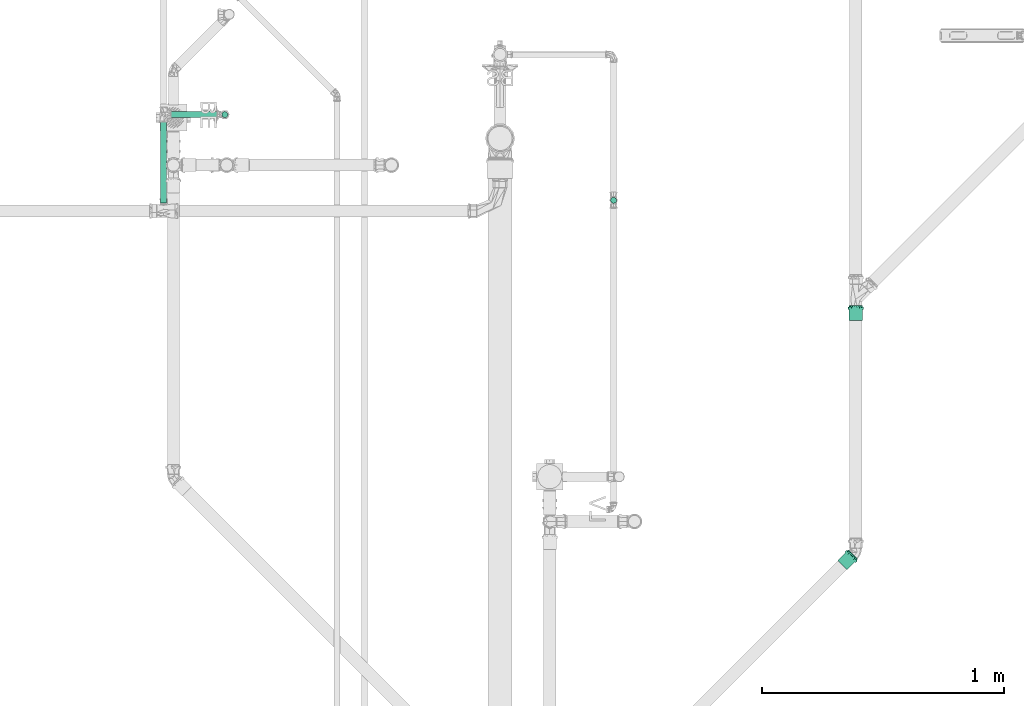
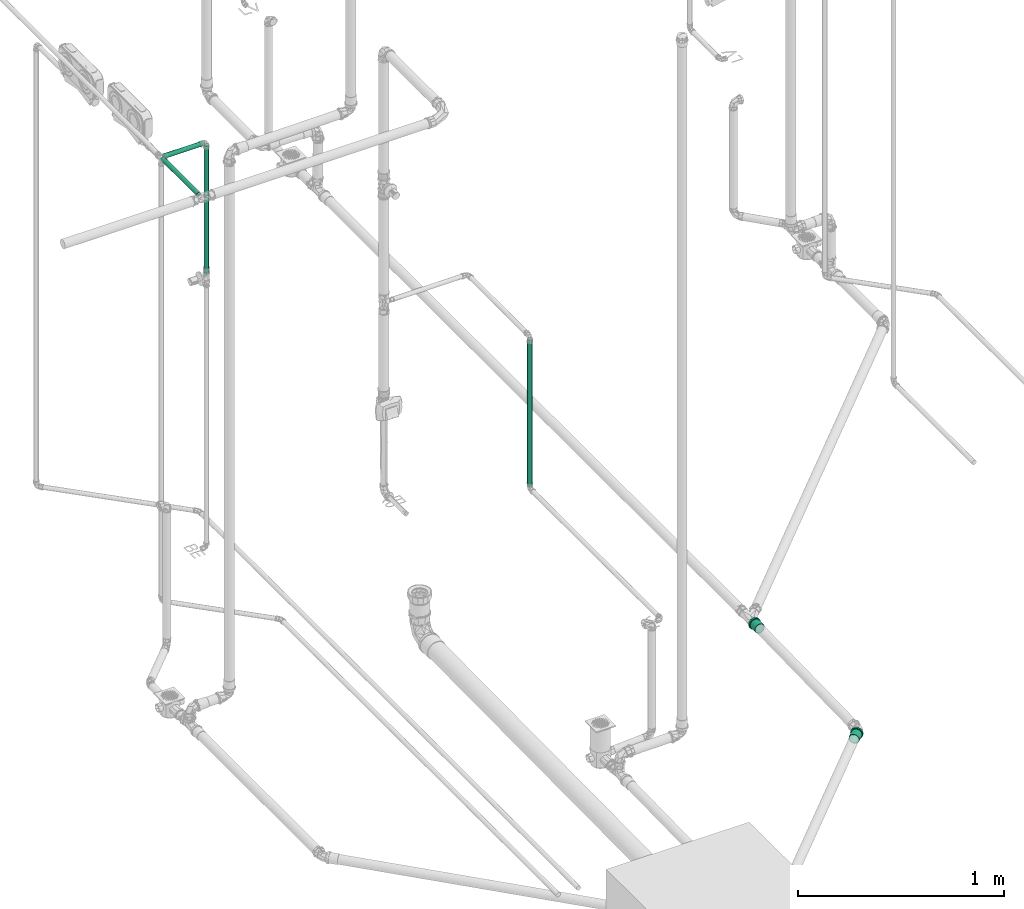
# One storey, part 143 of 589: 4 flow segments, 2 flow fittings.
"""IFC2X3 building model written with IfcOpenShell, lengths in millimetres."""

from ifc_helpers import new_model, entity, si_unit, converted_unit, derived_unit, direction, frame, frame_2d, origin, origin_2d_with_axis, place, context, subcontext, project, spatial, circle, extrude, faceted_brep, source, transform, mapped, material, type_object, type_shapes, element, save


model = new_model("IFC2X3")

# Units and contexts
model_context = context("Model", 3, precision=0.01, world=origin(), true_north=direction((6.123031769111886e-17, 1.0)))
body_context = subcontext(model_context, "Body", "Model", "MODEL_VIEW")
ifc_project = project(units=[si_unit("LENGTHUNIT", "METRE", prefix="MILLI"), si_unit("AREAUNIT", "SQUARE_METRE"), si_unit("VOLUMEUNIT", "CUBIC_METRE"), converted_unit("PLANEANGLEUNIT", "DEGREE", entity("IfcRatioMeasure", 0.017453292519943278), si_unit("PLANEANGLEUNIT", "RADIAN"), dimensions=[0, 0, 0, 0, 0, 0, 0]), si_unit("MASSUNIT", "GRAM", prefix="KILO"), derived_unit("MASSDENSITYUNIT", [(si_unit("MASSUNIT", "GRAM", prefix="KILO"), 1), (si_unit("LENGTHUNIT", "METRE"), -3)]), derived_unit("IONCONCENTRATIONUNIT", [(si_unit("MASSUNIT", "GRAM", prefix="KILO"), 1), (si_unit("LENGTHUNIT", "METRE"), -3)]), derived_unit("MOMENTOFINERTIAUNIT", [(si_unit("LENGTHUNIT", "METRE"), 4)]), si_unit("TIMEUNIT", "SECOND"), si_unit("FREQUENCYUNIT", "HERTZ"), si_unit("THERMODYNAMICTEMPERATUREUNIT", "DEGREE_CELSIUS"), derived_unit("THERMALTRANSMITTANCEUNIT", [(si_unit("MASSUNIT", "GRAM", prefix="KILO"), 1), (si_unit("THERMODYNAMICTEMPERATUREUNIT", "KELVIN"), -1), (si_unit("TIMEUNIT", "SECOND"), -3)]), derived_unit("THERMALCONDUCTANCEUNIT", [(si_unit("MASSUNIT", "GRAM", prefix="KILO"), 1), (si_unit("THERMODYNAMICTEMPERATUREUNIT", "KELVIN"), -1), (si_unit("TIMEUNIT", "SECOND"), -3), (si_unit("LENGTHUNIT", "METRE"), 1)]), derived_unit("VOLUMETRICFLOWRATEUNIT", [(si_unit("LENGTHUNIT", "METRE"), 3), (si_unit("TIMEUNIT", "SECOND"), -1)]), derived_unit("MASSFLOWRATEUNIT", [(si_unit("MASSUNIT", "GRAM", prefix="KILO"), 1), (si_unit("TIMEUNIT", "SECOND"), -1)]), derived_unit("ROTATIONALFREQUENCYUNIT", [(si_unit("TIMEUNIT", "SECOND"), -1)]), si_unit("ELECTRICCURRENTUNIT", "AMPERE"), si_unit("ELECTRICVOLTAGEUNIT", "VOLT"), si_unit("POWERUNIT", "WATT"), si_unit("FORCEUNIT", "NEWTON", prefix="KILO"), si_unit("ILLUMINANCEUNIT", "LUX"), si_unit("LUMINOUSFLUXUNIT", "LUMEN"), si_unit("LUMINOUSINTENSITYUNIT", "CANDELA"), derived_unit("USERDEFINED", [(si_unit("MASSUNIT", "GRAM", prefix="KILO"), -1), (si_unit("LENGTHUNIT", "METRE"), -2), (si_unit("TIMEUNIT", "SECOND"), 3), (si_unit("LUMINOUSFLUXUNIT", "LUMEN"), 1)]), derived_unit("USERDEFINED", [(si_unit("MASSUNIT", "GRAM", prefix="KILO"), 1), (si_unit("TIMEUNIT", "SECOND"), -3), (si_unit("LENGTHUNIT", "METRE"), 3), (si_unit("ELECTRICCURRENTUNIT", "AMPERE"), -2)]), derived_unit("SOUNDPOWERUNIT", [(si_unit("MASSUNIT", "GRAM", prefix="KILO"), 1), (si_unit("TIMEUNIT", "SECOND"), -3), (si_unit("LENGTHUNIT", "METRE"), 2)]), derived_unit("SOUNDPRESSUREUNIT", [(si_unit("MASSUNIT", "GRAM", prefix="KILO"), 1), (si_unit("LENGTHUNIT", "METRE"), -1), (si_unit("TIMEUNIT", "SECOND"), -2)]), derived_unit("LINEARVELOCITYUNIT", [(si_unit("LENGTHUNIT", "METRE"), 1), (si_unit("TIMEUNIT", "SECOND"), -1)]), si_unit("PRESSUREUNIT", "PASCAL"), derived_unit("USERDEFINED", [(si_unit("MASSUNIT", "GRAM", prefix="KILO"), 1), (si_unit("LENGTHUNIT", "METRE"), -2), (si_unit("TIMEUNIT", "SECOND"), -2)]), derived_unit("LINEARFORCEUNIT", [(si_unit("MASSUNIT", "GRAM", prefix="KILO"), 1), (si_unit("TIMEUNIT", "SECOND"), -2)]), derived_unit("PLANARFORCEUNIT", [(si_unit("MASSUNIT", "GRAM", prefix="KILO"), 1), (si_unit("LENGTHUNIT", "METRE"), -1), (si_unit("TIMEUNIT", "SECOND"), -2)]), derived_unit("SPECIFICHEATCAPACITYUNIT", [(si_unit("THERMODYNAMICTEMPERATUREUNIT", "KELVIN"), -1), (si_unit("LENGTHUNIT", "METRE"), 2), (si_unit("TIMEUNIT", "SECOND"), -2)]), derived_unit("HEATINGVALUEUNIT", [(si_unit("LENGTHUNIT", "METRE"), 2), (si_unit("TIMEUNIT", "SECOND"), -2)]), derived_unit("VAPORPERMEABILITYUNIT", [(si_unit("LENGTHUNIT", "METRE"), -1), (si_unit("TIMEUNIT", "SECOND"), 1)]), derived_unit("DYNAMICVISCOSITYUNIT", [(si_unit("MASSUNIT", "GRAM", prefix="KILO"), 1), (si_unit("TIMEUNIT", "SECOND"), -1), (si_unit("LENGTHUNIT", "METRE"), -1)]), derived_unit("THERMALEXPANSIONCOEFFICIENTUNIT", [(si_unit("THERMODYNAMICTEMPERATUREUNIT", "KELVIN"), -1)]), derived_unit("MODULUSOFELASTICITYUNIT", [(si_unit("MASSUNIT", "GRAM", prefix="KILO"), 1), (si_unit("LENGTHUNIT", "METRE"), -1), (si_unit("TIMEUNIT", "SECOND"), -2)]), derived_unit("ISOTHERMALMOISTURECAPACITYUNIT", [(si_unit("LENGTHUNIT", "METRE"), 3), (si_unit("MASSUNIT", "GRAM", prefix="KILO"), -1)]), derived_unit("MOISTUREDIFFUSIVITYUNIT", [(si_unit("TIMEUNIT", "SECOND"), -1), (si_unit("LENGTHUNIT", "METRE"), 2)])], contexts=[model_context])

# Site, building, storey
site_placement = place(None, origin())
site = spatial("IfcSite", under=ifc_project, at=site_placement, Name="Default", CompositionType="ELEMENT")
building_placement = place(site_placement, origin())
building = spatial("IfcBuilding", under=site, at=building_placement, CompositionType="ELEMENT")
storey_placement = place(building_placement, frame((0.0, 0.0, 100.0)))
storey = spatial("IfcBuildingStorey", under=building, at=storey_placement, Name="TÉRREO", CompositionType="ELEMENT", Elevation=100.0)

# Flow segments
pipe_segment_type = type_object("IfcPipeSegmentType", Name="Tipos de tubos:PVC Marrom Soldável", PredefinedType="NOTDEFINED")
flow_segment_1_placement = place(storey_placement, origin())
element("IfcFlowSegment", 1, at=flow_segment_1_placement, inside=storey, type_object=pipe_segment_type, Name="Tipos de tubos:PVC Marrom Soldável", ObjectType="Tipos de tubos:PVC Marrom Soldável", context=body_context, shape_type="SweptSolid", body=[
    extrude(circle(Radius=12.5, at=origin_2d_with_axis()), frame((9266.870885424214, -8568.028664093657, 615.4000000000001), z_axis=(0.0, 0.0, 1.0), x_axis=(-1.0, 0.0, 0.0)), (0.0, 0.0, 1.0), 867.999999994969),
])
flow_segment_2_placement = place(storey_placement, origin())
element("IfcFlowSegment", 2, at=flow_segment_2_placement, inside=storey, type_object=pipe_segment_type, Name="Tipos de tubos:PVC Marrom Soldável", ObjectType="Tipos de tubos:PVC Marrom Soldável", context=body_context, shape_type="SweptSolid", body=[
    extrude(circle(Radius=12.5, at=frame_2d((0.0, 1.0828671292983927e-12), x_axis=(1.0, 0.0))), frame((7661.65760304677, -8214.483617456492, 2220.0), z_axis=(0.0, 0.0, 1.0), x_axis=(-1.0, 0.0, 0.0)), (0.0, 0.0, 1.0), 759.6000000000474),
])
flow_segment_3_placement = place(storey_placement, origin())
element("IfcFlowSegment", 3, at=flow_segment_3_placement, inside=storey, type_object=pipe_segment_type, Name="Tipos de tubos:PVC Marrom Soldável", ObjectType="Tipos de tubos:PVC Marrom Soldável", context=body_context, shape_type="SweptSolid", body=[
    extrude(circle(Radius=12.5, at=origin_2d_with_axis()), frame((7408.9426853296, -8578.831283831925, 2995.0), z_axis=(0.0, 1.0, 0.0), x_axis=(1.0, 0.0, 0.0)), (0.0, 0.0, 1.0), 348.44766637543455),
])
flow_segment_4_placement = place(storey_placement, origin())
element("IfcFlowSegment", 4, at=flow_segment_4_placement, inside=storey, type_object=pipe_segment_type, Name="Tipos de tubos:PVC Marrom Soldável", ObjectType="Tipos de tubos:PVC Marrom Soldável", context=body_context, shape_type="SweptSolid", body=[
    extrude(circle(Radius=12.5, at=frame_2d((0.0, -5.414335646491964e-13), x_axis=(1.0, 0.0))), frame((7423.442685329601, -8214.483617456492, 2995.0), z_axis=(1.0, 0.0, 0.0), x_axis=(0.0, 1.0, 0.0)), (0.0, 0.0, 1.0), 222.8149177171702),
])

# Flow fittings
ifc_material = material(Name="PVC Série Normal")
pipe_fitting_type = type_object("IfcPipeFittingType", Name="PVC Esgoto_Luva Simples para Conexão_Rodrigo MEP:Standard", PredefinedType="NOTDEFINED", material=ifc_material)
shared_shape = source(origin(), body_context, "Body", "Brep", [
    faceted_brep([(16.599999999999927, 15.900000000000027, -27.53960784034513), (16.599999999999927, 22.485995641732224, -22.485995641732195), (16.599999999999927, 13.599999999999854, -23.555890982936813), (16.599999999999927, 7.039878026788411, -26.273182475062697), (16.599999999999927, 8.2304456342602, -30.71644127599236), (16.599999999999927, 19.233304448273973, -19.233304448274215), (16.599999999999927, 27.539607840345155, -15.899999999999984), (16.599999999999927, 23.55589098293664, -13.600000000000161), (16.599999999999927, 26.273182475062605, -7.03987802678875), (16.599999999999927, 30.716441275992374, -8.230445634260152), (16.599999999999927, 27.2, 0.0), (16.599999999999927, 31.8, 0.0), (16.599999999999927, 26.273182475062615, 7.0398780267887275), (16.599999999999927, 30.71644127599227, 8.23044563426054), (16.599999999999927, 23.555890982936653, 13.60000000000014), (16.599999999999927, 27.539607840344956, 15.900000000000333), (16.599999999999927, 19.233304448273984, 19.2333044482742), (16.599999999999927, 22.485995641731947, 22.48599564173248), (16.599999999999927, 13.599999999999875, 23.555890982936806), (16.599999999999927, 15.899999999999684, 27.53960784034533), (16.599999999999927, 7.039878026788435, 26.27318247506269), (16.599999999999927, 8.230445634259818, 30.716441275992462), (16.599999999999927, 0.0, 27.2), (16.599999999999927, 0.0, 31.8), (16.599999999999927, -7.039878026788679, 26.273182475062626), (16.599999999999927, -8.230445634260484, 30.716441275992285), (16.599999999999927, -13.600000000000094, 23.555890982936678), (16.599999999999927, -15.900000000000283, 27.53960784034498), (16.599999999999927, -19.23330444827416, 19.233304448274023), (16.599999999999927, -22.485995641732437, 22.48599564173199), (16.599999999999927, -23.55589098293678, 13.59999999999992), (16.599999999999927, -27.539607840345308, 15.899999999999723), (16.599999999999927, -30.71644127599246, 8.230445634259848), (16.599999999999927, -26.273182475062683, 7.039878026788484), (16.599999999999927, -31.8, 0.0), (16.599999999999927, -27.2, 0.0), (16.599999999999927, -30.71644127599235, -8.23044563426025), (16.599999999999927, -26.273182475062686, -7.03987802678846), (16.599999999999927, -27.53960784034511, -15.90000000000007), (16.599999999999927, -23.55589098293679, -13.599999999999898), (16.599999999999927, -22.485995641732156, -22.485995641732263), (16.599999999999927, -19.233304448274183, -19.233304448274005), (16.599999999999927, -15.899999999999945, -27.53960784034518), (16.599999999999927, -13.600000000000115, -23.555890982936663), (16.599999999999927, -8.230445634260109, -30.716441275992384), (16.599999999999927, -7.039878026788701, -26.273182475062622), (16.599999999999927, 0.0, -31.8), (16.599999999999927, 0.0, -27.2), (6.500000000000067, -10.708108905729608, 29.429219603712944), (6.500000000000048, -24.359073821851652, 20.44200387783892), (6.500000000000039, -27.120498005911, 15.6595386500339), (6.50000000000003, -29.881922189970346, 10.877073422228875), (6.500000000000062, -15.89769721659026, 27.540937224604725), (6.500000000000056, -20.128385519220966, 23.991470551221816), (6.50000000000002, -30.840961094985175, 5.438536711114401), (6.5000000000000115, -31.8, 0.0), (6.50000000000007, -5.518520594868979, 31.317501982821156), (6.500000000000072, 5.526376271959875, 31.316116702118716), (6.50000000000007, 0.00392783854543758, 31.316809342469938), (6.500000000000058, 20.134403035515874, 23.986420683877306), (6.500000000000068, 10.715490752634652, 29.42653259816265), (6.500000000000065, 15.904605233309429, 27.536948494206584), (6.500000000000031, 29.8846497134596, 10.869577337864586), (6.500000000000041, 27.12442527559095, 15.652735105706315), (6.5000000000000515, 24.364200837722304, 20.435892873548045), (6.5000000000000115, 31.8, 0.0), (6.499999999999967, 24.364200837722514, -20.435892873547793), (6.499999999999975, 27.12442527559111, -15.652735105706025), (6.499999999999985, 29.884649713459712, -10.869577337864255), (6.4999999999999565, 15.904605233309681, -27.53694849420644), (6.499999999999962, 20.134403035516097, -23.986420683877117), (6.499999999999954, 10.715490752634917, -29.42653259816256), (6.499999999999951, 5.526376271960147, -31.31611670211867), (6.499999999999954, -5.518520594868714, -31.317501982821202), (6.499999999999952, 0.003927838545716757, -31.316809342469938), (6.499999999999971, -20.128385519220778, -23.99147055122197), (6.499999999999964, -15.897697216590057, -27.54093722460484), (6.499999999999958, -10.70810890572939, -29.42921960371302), (6.499999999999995, -29.881922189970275, -10.877073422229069), (6.499999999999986, -27.12049800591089, -15.659538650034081), (6.499999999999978, -24.359073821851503, -20.442003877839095), (6.500000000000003, -30.840961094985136, -5.438536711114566), (6.499999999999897, -30.696173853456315, -6.259599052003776), (62.0, 13.600000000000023, -23.55589098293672), (62.0, 19.233304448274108, -19.23330444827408), (62.0, 12.499999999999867, -21.650635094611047), (62.0, 6.470476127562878, -24.14814565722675), (62.0, 7.039878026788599, -26.273182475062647), (62.0, 17.677669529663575, -17.677669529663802), (62.0, 23.55589098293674, -13.599999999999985), (62.0, 21.65063509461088, -12.50000000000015), (62.0, 24.148145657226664, -6.470476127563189), (62.0, 26.27318247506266, -7.039878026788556), (62.0, 25.0, 0.0), (62.0, 27.2, 0.0), (62.0, 24.148145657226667, 6.4704761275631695), (62.0, 26.273182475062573, 7.03987802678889), (62.0, 21.650635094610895, 12.500000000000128), (62.0, 23.555890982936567, 13.600000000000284), (62.0, 17.67766952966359, 17.67766952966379), (62.0, 19.233304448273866, 19.233304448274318), (62.0, 12.499999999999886, 21.650635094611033), (62.0, 13.59999999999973, 23.55589098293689), (62.0, 6.4704761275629, 24.14814565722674), (62.0, 7.039878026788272, 26.273182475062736), (62.0, 0.0, 25.0), (62.0, 0.0, 27.2), (62.0, -6.470476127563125, 24.148145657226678), (62.0, -7.039878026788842, 26.273182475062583), (62.0, -12.500000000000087, 21.650635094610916), (62.0, -13.600000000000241, 23.555890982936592), (62.0, -17.677669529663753, 17.677669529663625), (62.0, -19.233304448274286, 19.2333044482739), (62.0, -21.65063509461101, 12.499999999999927), (62.0, -23.555890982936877, 13.599999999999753), (62.0, -26.27318247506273, 7.039878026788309), (62.0, -24.14814565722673, 6.470476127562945), (62.0, -27.2, 0.0), (62.0, -25.0, 0.0), (62.0, -26.27318247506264, -7.0398780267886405), (62.0, -24.148145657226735, -6.470476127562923), (62.0, -23.5558909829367, -13.600000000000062), (62.0, -21.650635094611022, -12.499999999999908), (62.0, -19.233304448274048, -19.233304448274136), (62.0, -17.67766952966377, -17.677669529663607), (62.0, -13.599999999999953, -23.555890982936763), (62.0, -12.500000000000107, -21.650635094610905), (62.0, -7.039878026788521, -26.27318247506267), (62.0, -6.470476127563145, -24.148145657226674), (62.0, 0.0, -27.2), (62.0, 0.0, -25.0), (0.0, 12.499999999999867, -21.650635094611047), (0.0, 19.233304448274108, -19.23330444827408), (0.0, 13.600000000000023, -23.55589098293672), (0.0, 6.470476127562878, -24.14814565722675), (0.0, 17.677669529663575, -17.677669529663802), (0.0, 23.55589098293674, -13.599999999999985), (0.0, 21.65063509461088, -12.50000000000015), (0.0, 24.148145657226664, -6.470476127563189), (0.0, 26.27318247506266, -7.039878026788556), (0.0, 25.0, 0.0), (0.0, 27.2, 0.0), (0.0, 24.148145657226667, 6.4704761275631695), (0.0, 26.273182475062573, 7.03987802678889), (0.0, 21.650635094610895, 12.500000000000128), (0.0, 23.555890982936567, 13.600000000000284), (0.0, 17.67766952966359, 17.67766952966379), (0.0, 19.233304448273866, 19.233304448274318), (0.0, 12.499999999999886, 21.650635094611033), (0.0, 13.59999999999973, 23.55589098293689), (0.0, 6.4704761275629, 24.14814565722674), (0.0, 7.039878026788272, 26.273182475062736), (0.0, 0.0, 25.0), (0.0, 0.0, 27.2), (0.0, -6.470476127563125, 24.148145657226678), (0.0, -7.039878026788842, 26.273182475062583), (0.0, -12.500000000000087, 21.650635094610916), (0.0, -13.600000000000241, 23.555890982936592), (0.0, -17.677669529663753, 17.677669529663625), (0.0, -19.233304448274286, 19.2333044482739), (0.0, -21.65063509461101, 12.499999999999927), (0.0, -23.555890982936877, 13.599999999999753), (0.0, -26.27318247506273, 7.039878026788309), (0.0, -24.14814565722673, 6.470476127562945), (0.0, -27.2, 0.0), (0.0, -25.0, 0.0), (0.0, -26.27318247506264, -7.0398780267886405), (0.0, -24.148145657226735, -6.470476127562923), (0.0, -23.5558909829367, -13.600000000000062), (0.0, -21.650635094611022, -12.499999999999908), (0.0, -19.233304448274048, -19.233304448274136), (0.0, -17.67766952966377, -17.677669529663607), (0.0, -13.599999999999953, -23.555890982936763), (0.0, -12.500000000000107, -21.650635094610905), (0.0, -7.039878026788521, -26.27318247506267), (0.0, -6.470476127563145, -24.148145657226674), (0.0, 0.0, -27.2), (0.0, 0.0, -25.0), (0.0, 7.039878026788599, -26.273182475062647), (5.300000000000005, -26.37968999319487, 4.651830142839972), (5.299999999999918, -26.25584678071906, 5.354122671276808), (5.300000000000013, -25.559379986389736, 9.303660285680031), (5.300000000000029, -20.835434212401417, 17.48498444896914), (5.300000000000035, -17.216732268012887, 20.521006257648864), (5.300000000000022, -23.19740709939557, 13.394322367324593), (5.3000000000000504, -4.720244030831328, 26.787297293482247), (5.300000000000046, -9.15913717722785, 25.172162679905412), (5.299999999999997, -27.2, 0.0), (5.300000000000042, -13.598030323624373, 23.557028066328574), (5.300000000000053, 9.165451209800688, 25.169864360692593), (5.300000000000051, 13.603939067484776, 23.55361632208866), (5.300000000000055, 4.7269633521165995, 26.786112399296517), (5.300000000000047, 17.221879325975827, 20.516686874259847), (5.300000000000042, 20.839819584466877, 17.479757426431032), (5.3000000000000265, 25.56171296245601, 9.297248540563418), (5.299999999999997, 27.2, 0.0), (5.3000000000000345, 23.20076627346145, 13.388502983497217), (5.300000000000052, 0.003359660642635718, 26.786704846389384), (5.299999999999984, 25.56171296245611, -9.29724854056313), (5.299999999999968, 20.839819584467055, -17.47975742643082), (5.2999999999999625, 17.22187932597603, -20.516686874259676), (5.299999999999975, 23.200766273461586, -13.388502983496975), (5.299999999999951, 4.726963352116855, -26.78611239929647), (5.2999999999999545, 9.165451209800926, -25.169864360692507), (5.299999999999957, 13.603939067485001, -23.553616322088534), (5.29999999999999, -26.379689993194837, -4.651830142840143), (5.299999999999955, -9.159137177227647, -25.17216267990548), (5.299999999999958, -13.5980303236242, -23.55702806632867), (5.299999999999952, -4.720244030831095, -26.787297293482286), (5.299999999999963, -17.216732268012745, -20.52100625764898), (5.299999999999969, -20.83543421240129, -17.484984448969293), (5.299999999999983, -25.559379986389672, -9.303660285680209), (5.299999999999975, -23.197407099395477, -13.394322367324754), (5.299999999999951, 0.003359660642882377, -26.78670484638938), (39.0, -25.0, 0.0), (39.0, 25.0, 0.0)], [[[0, 1, 2]], [[0, 2, 3]], [[3, 4, 0]], [[2, 1, 5]], [[6, 5, 1]], [[7, 5, 6]], [[8, 7, 6]], [[8, 6, 9]], [[8, 9, 10]], [[10, 9, 11]], [[12, 10, 11]], [[12, 11, 13]], [[14, 12, 13]], [[14, 13, 15]], [[16, 14, 15]], [[15, 17, 16]], [[17, 18, 16]], [[17, 19, 18]], [[18, 19, 20]], [[21, 20, 19]], [[20, 21, 22]], [[22, 21, 23]], [[22, 23, 24]], [[24, 23, 25]], [[24, 25, 26]], [[27, 26, 25]], [[27, 28, 26]], [[28, 27, 29]], [[30, 28, 29]], [[31, 30, 29]], [[32, 30, 31]], [[33, 30, 32]], [[33, 32, 34]], [[35, 33, 34]], [[36, 35, 34]], [[36, 37, 35]], [[37, 36, 38]], [[39, 37, 38]], [[39, 38, 40]], [[39, 40, 41]], [[40, 42, 41]], [[41, 42, 43]], [[43, 42, 44]], [[44, 45, 43]], [[46, 45, 44]], [[4, 47, 46]], [[46, 47, 45]], [[4, 3, 47]], [[48, 27, 25]], [[31, 29, 49]], [[31, 49, 50, 51]], [[52, 53, 27]], [[32, 51, 54]], [[54, 55, 34]], [[54, 34, 32]], [[25, 56, 48]], [[49, 29, 53]], [[23, 57, 58, 56]], [[59, 19, 17]], [[27, 53, 29]], [[48, 52, 27]], [[31, 51, 32]], [[57, 23, 21]], [[60, 19, 61]], [[15, 62, 63, 64]], [[19, 60, 21]], [[15, 13, 62]], [[17, 64, 59]], [[57, 21, 60]], [[23, 56, 25]], [[15, 64, 17]], [[13, 65, 62]], [[13, 11, 65]], [[59, 61, 19]], [[65, 11, 9]], [[6, 1, 66]], [[6, 66, 67, 68]], [[69, 70, 0]], [[68, 65, 9]], [[71, 69, 0]], [[71, 0, 4]], [[4, 72, 71]], [[66, 1, 70]], [[46, 73, 74, 72]], [[75, 76, 42]], [[0, 70, 1]], [[75, 42, 40]], [[6, 68, 9]], [[73, 46, 44]], [[77, 42, 76]], [[38, 78, 79, 80]], [[42, 77, 44]], [[38, 36, 78]], [[40, 80, 75]], [[73, 44, 77]], [[46, 72, 4]], [[38, 80, 40]], [[36, 81, 82, 78]], [[55, 81, 34]], [[34, 81, 36]], [[83, 84, 85]], [[83, 85, 86]], [[86, 87, 83]], [[85, 84, 88]], [[89, 88, 84]], [[88, 89, 90]], [[90, 89, 91]], [[92, 91, 89]], [[92, 93, 91]], [[93, 92, 94]], [[95, 93, 94]], [[94, 96, 95]], [[95, 96, 97]], [[98, 97, 96]], [[97, 98, 99]], [[99, 98, 100]], [[101, 99, 100]], [[100, 102, 101]], [[101, 102, 103]], [[104, 103, 102]], [[103, 104, 105]], [[105, 104, 106]], [[105, 106, 107]], [[107, 106, 108]], [[107, 108, 109]], [[110, 109, 108]], [[110, 111, 109]], [[111, 110, 112]], [[112, 113, 111]], [[114, 113, 112]], [[113, 114, 115]], [[115, 116, 113]], [[117, 116, 115]], [[117, 118, 116]], [[119, 118, 117]], [[119, 120, 118]], [[120, 119, 121]], [[121, 122, 120]], [[122, 121, 123]], [[122, 123, 124]], [[123, 125, 124]], [[124, 125, 126]], [[126, 125, 127]], [[127, 128, 126]], [[129, 128, 127]], [[87, 130, 129]], [[129, 130, 128]], [[87, 86, 130]], [[131, 132, 133]], [[134, 131, 133]], [[135, 132, 131]], [[132, 135, 136]], [[137, 136, 135]], [[138, 136, 137]], [[136, 138, 139]], [[138, 140, 139]], [[141, 139, 140]], [[141, 140, 142]], [[142, 143, 141]], [[144, 143, 142]], [[143, 144, 145]], [[146, 145, 144]], [[147, 145, 146]], [[147, 146, 148]], [[148, 149, 147]], [[150, 149, 148]], [[149, 150, 151]], [[152, 151, 150]], [[153, 151, 152]], [[154, 153, 152]], [[155, 153, 154]], [[156, 155, 154]], [[155, 156, 157]], [[156, 158, 157]], [[159, 157, 158]], [[158, 160, 159]], [[159, 160, 161]], [[162, 161, 160]], [[160, 163, 162]], [[162, 163, 164]], [[163, 165, 164]], [[164, 165, 166]], [[165, 167, 166]], [[168, 166, 167]], [[167, 169, 168]], [[170, 168, 169]], [[171, 170, 169]], [[171, 172, 170]], [[173, 172, 171]], [[174, 172, 173]], [[173, 175, 174]], [[174, 175, 176]], [[175, 177, 176]], [[177, 134, 178]], [[176, 177, 178]], [[133, 178, 134]], [[162, 179, 180, 181]], [[159, 182, 183]], [[182, 161, 181, 184]], [[185, 155, 186]], [[161, 162, 181]], [[187, 179, 164]], [[183, 188, 157]], [[183, 157, 159]], [[161, 182, 159]], [[189, 190, 149]], [[189, 149, 151]], [[157, 188, 186]], [[157, 186, 155]], [[153, 155, 185]], [[164, 179, 162]], [[151, 191, 189]], [[147, 192, 193]], [[143, 194, 195]], [[194, 145, 193, 196]], [[143, 195, 141]], [[10, 12, 96, 94]], [[149, 192, 147]], [[153, 185, 197, 191]], [[153, 191, 151]], [[145, 147, 193]], [[190, 192, 149]], [[145, 194, 143]], [[139, 195, 198]], [[132, 199, 200]], [[199, 136, 198, 201]], [[202, 178, 203]], [[136, 139, 198]], [[139, 141, 195]], [[92, 8, 10, 94]], [[133, 203, 178]], [[200, 204, 133]], [[136, 199, 132]], [[205, 164, 166]], [[206, 207, 172]], [[133, 204, 203]], [[206, 172, 174]], [[176, 178, 202]], [[200, 133, 132]], [[174, 208, 206]], [[170, 209, 210]], [[166, 211, 205]], [[211, 168, 210, 212]], [[168, 211, 166]], [[172, 209, 170]], [[176, 202, 213, 208]], [[176, 208, 174]], [[168, 170, 210]], [[207, 209, 172]], [[205, 187, 164]], [[116, 118, 214, 165, 163]], [[156, 109, 111, 158]], [[111, 113, 160, 158]], [[113, 116, 163, 160]], [[107, 109, 156, 154]], [[154, 152, 105, 107]], [[103, 105, 152, 150]], [[103, 150, 148, 101]], [[142, 95, 97, 144]], [[97, 99, 146, 144]], [[99, 101, 148, 146]], [[93, 95, 142, 140, 215]], [[215, 140, 138, 91, 93]], [[135, 131, 85, 88]], [[90, 91, 138, 137]], [[90, 137, 135, 88]], [[86, 85, 131, 134]], [[134, 177, 130, 86]], [[128, 130, 177, 175]], [[128, 175, 173, 126]], [[167, 120, 122, 169]], [[122, 124, 171, 169]], [[124, 126, 173, 171]], [[118, 120, 167, 165, 214]], [[211, 78, 82, 81, 55, 187, 205]], [[79, 78, 211, 212, 210, 80]], [[75, 80, 210, 209, 207, 76]], [[207, 206, 208, 73, 77, 76]], [[213, 202, 72, 74, 73, 208]], [[203, 204, 69, 71, 72, 202]], [[198, 195, 65, 68]], [[199, 201, 198, 68, 67, 66]], [[204, 200, 199, 66, 70, 69]], [[195, 194, 62, 65]], [[197, 185, 56, 58, 57, 191]], [[63, 62, 194, 196, 193, 64]], [[57, 60, 61, 190, 189, 191]], [[193, 192, 190, 61, 59, 64]], [[48, 56, 185, 186, 188, 52]], [[187, 55, 54, 51, 181, 180, 179]], [[182, 184, 181, 51, 50, 49]], [[188, 183, 182, 49, 53, 52]], [[30, 33, 115, 114]], [[117, 115, 33, 35]], [[26, 28, 112, 110]], [[114, 112, 28, 30]], [[24, 26, 110, 108]], [[108, 106, 22, 24]], [[18, 20, 104, 102]], [[100, 16, 18, 102]], [[12, 14, 98, 96]], [[100, 98, 14, 16]], [[104, 20, 22, 106]], [[89, 7, 8, 92]], [[83, 87, 3, 2]], [[7, 89, 84, 5]], [[83, 2, 5, 84]], [[87, 129, 47, 3]], [[43, 45, 127, 125]], [[123, 41, 43, 125]], [[37, 39, 121, 119]], [[123, 121, 39, 41]], [[35, 37, 119, 117]], [[127, 45, 47, 129]]]),
])
type_shapes(pipe_fitting_type, [shared_shape])
for number, where, z_axis, x_axis, name in (
    (5, (10266.454903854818, -9002.320349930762, -278.33413513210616), (-0.028272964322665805, 0.0, 0.9996002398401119), (0.0, -1.0, 0.0), "PVC Esgoto_Luva Simples para Conexão_Rodrigo MEP:Standard"),
    (6, (10255.16676603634, -10030.605976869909, -298.3473616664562), (-0.008282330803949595, -0.019995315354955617, 0.9997657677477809), (-0.7069654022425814, -0.7069654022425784, -0.019996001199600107), "PVC Esgoto_Luva Simples para Conexão_Rodrigo MEP:Standard"),
):
    element("IfcFlowFitting", number, at=place(storey_placement, frame(where, z_axis=z_axis, x_axis=x_axis)), inside=storey, type_object=pipe_fitting_type, material=ifc_material, Name=name, ObjectType="PVC Esgoto_Luva Simples para Conexão_Rodrigo MEP:Standard", context=body_context, shape_type="MappedRepresentation", body=[
        mapped(shared_shape, transform((0.0, 0.0, 0.0), scale=1.0)),
    ])

save(model, "model.ifc")
